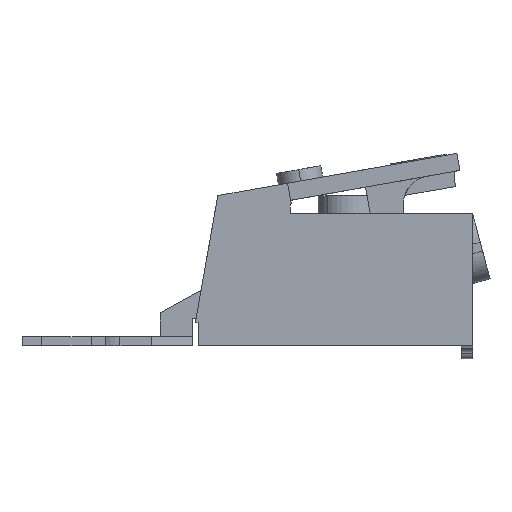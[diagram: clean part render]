
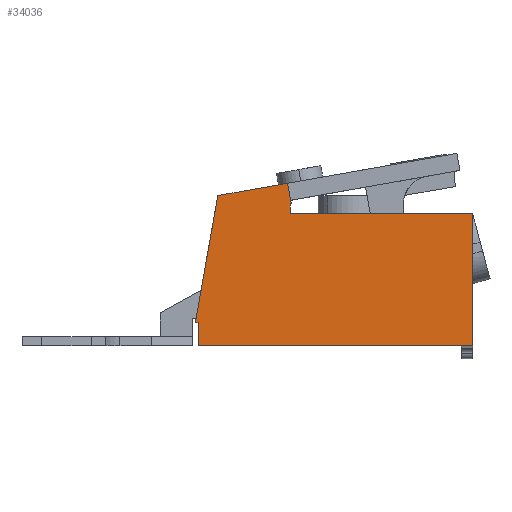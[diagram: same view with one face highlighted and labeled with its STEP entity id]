
A CAD part, left-side view. The second image highlights one B-rep face of the part: STEP entity #34036.
In plain terms, the highlighted planar face has unit normal (-1, 0, 0).
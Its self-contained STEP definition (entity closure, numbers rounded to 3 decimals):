
#14736=CARTESIAN_POINT(' ',(-14.9,0.,11.5));
#14737=VERTEX_POINT(' ',#14736);
#14751=CARTESIAN_POINT(' ',(-14.9,0.,0.));
#14756=DIRECTION(' ',(0.,0.,1.));
#14761=VECTOR(' ',#14756,1.);
#14766=LINE('',#14751,#14761);
#14771=CARTESIAN_POINT(' ',(-14.9,0.,0.));
#14772=VERTEX_POINT(' ',#14771);
#14776=EDGE_CURVE(' ',#14772,#14737,#14766,.T.);
#16676=CARTESIAN_POINT(' ',(-14.9,23.8,0.));
#16681=DIRECTION(' ',(0.,-1.,0.));
#16686=VECTOR(' ',#16681,1.);
#16691=LINE('',#16676,#16686);
#16696=CARTESIAN_POINT(' ',(-14.9,23.8,0.));
#16697=VERTEX_POINT(' ',#16696);
#16701=EDGE_CURVE(' ',#16697,#14772,#16691,.T.);
#16936=CARTESIAN_POINT(' ',(-14.9,23.8,2.));
#16941=DIRECTION(' ',(0.,0.,-1.));
#16946=VECTOR(' ',#16941,1.);
#16951=LINE('',#16936,#16946);
#16956=CARTESIAN_POINT(' ',(-14.9,23.8,2.));
#16957=VERTEX_POINT(' ',#16956);
#16961=EDGE_CURVE(' ',#16957,#16697,#16951,.T.);
#17101=CARTESIAN_POINT(' ',(-14.9,23.8,2.));
#17106=DIRECTION(' ',(0.,1.,0.));
#17111=VECTOR(' ',#17106,1.);
#17116=LINE('',#17101,#17111);
#17121=CARTESIAN_POINT(' ',(-14.9,24.026,2.));
#17122=VERTEX_POINT(' ',#17121);
#17126=EDGE_CURVE(' ',#16957,#17122,#17116,.T.);
#17256=CARTESIAN_POINT(' ',(-14.9,24.026,2.));
#17261=DIRECTION(' ',(0.,-0.174,0.985));
#17266=VECTOR(' ',#17261,1.);
#17271=LINE('',#17256,#17266);
#17276=CARTESIAN_POINT(' ',(-14.9,22.082,13.025));
#17277=VERTEX_POINT(' ',#17276);
#17281=EDGE_CURVE(' ',#17122,#17277,#17271,.T.);
#19671=CARTESIAN_POINT(' ',(-14.9,22.082,13.025));
#19676=DIRECTION(' ',(0.,-0.985,0.174));
#19681=VECTOR(' ',#19676,1.);
#19686=LINE('',#19671,#19681);
#19691=CARTESIAN_POINT(' ',(-14.9,16.04,14.09));
#19692=VERTEX_POINT(' ',#19691);
#19696=EDGE_CURVE(' ',#17277,#19692,#19686,.T.);
#21441=CARTESIAN_POINT(' ',(-14.9,16.04,14.09));
#21446=DIRECTION(' ',(0.,-0.174,-0.985));
#21451=VECTOR(' ',#21446,1.);
#21456=LINE('',#21441,#21451);
#21461=CARTESIAN_POINT(' ',(-14.9,15.724,12.3));
#21462=VERTEX_POINT(' ',#21461);
#21466=EDGE_CURVE(' ',#19692,#21462,#21456,.T.);
#21651=CARTESIAN_POINT(' ',(-14.9,15.8,12.3));
#21652=VERTEX_POINT(' ',#21651);
#21676=CARTESIAN_POINT(' ',(-14.9,15.724,12.3));
#21681=DIRECTION(' ',(0.,1.,0.));
#21686=VECTOR(' ',#21681,1.);
#21691=LINE('',#21676,#21686);
#21696=EDGE_CURVE(' ',#21462,#21652,#21691,.T.);
#21791=CARTESIAN_POINT(' ',(-14.9,15.8,11.5));
#21796=DIRECTION(' ',(0.,0.,1.));
#21801=VECTOR(' ',#21796,1.);
#21806=LINE('',#21791,#21801);
#21811=CARTESIAN_POINT(' ',(-14.9,15.8,11.5));
#21812=VERTEX_POINT(' ',#21811);
#21816=EDGE_CURVE(' ',#21812,#21652,#21806,.T.);
#21956=CARTESIAN_POINT(' ',(-14.9,0.,11.5));
#21961=DIRECTION(' ',(0.,1.,0.));
#21966=VECTOR(' ',#21961,1.);
#21971=LINE('',#21956,#21966);
#21976=EDGE_CURVE(' ',#14737,#21812,#21971,.T.);
#33951=CARTESIAN_POINT(' ',(-14.9,24.026,0.));
#33956=DIRECTION(' ',(-1.,0.,0.));
#33961=DIRECTION(' ',(0.,-1.,0.));
#33966=AXIS2_PLACEMENT_3D(' ',#33951,#33956,#33961);
#33971=PLANE(' ',#33966);
#33976=ORIENTED_EDGE(' ',*,*,#16701,.T.);
#33981=ORIENTED_EDGE(' ',*,*,#14776,.T.);
#33986=ORIENTED_EDGE(' ',*,*,#21976,.T.);
#33991=ORIENTED_EDGE(' ',*,*,#21816,.T.);
#33996=ORIENTED_EDGE(' ',*,*,#21696,.F.);
#34001=ORIENTED_EDGE(' ',*,*,#21466,.F.);
#34006=ORIENTED_EDGE(' ',*,*,#19696,.F.);
#34011=ORIENTED_EDGE(' ',*,*,#17281,.F.);
#34016=ORIENTED_EDGE(' ',*,*,#17126,.F.);
#34021=ORIENTED_EDGE(' ',*,*,#16961,.T.);
#34026=EDGE_LOOP(' ',(#33976,#33981,#33986,#33991,#33996,#34001,#34006,#34011,#34016,#34021));
#34031=FACE_OUTER_BOUND(' ',#34026,.T.);
#34036=ADVANCED_FACE('',(#34031),#33971,.T.);
